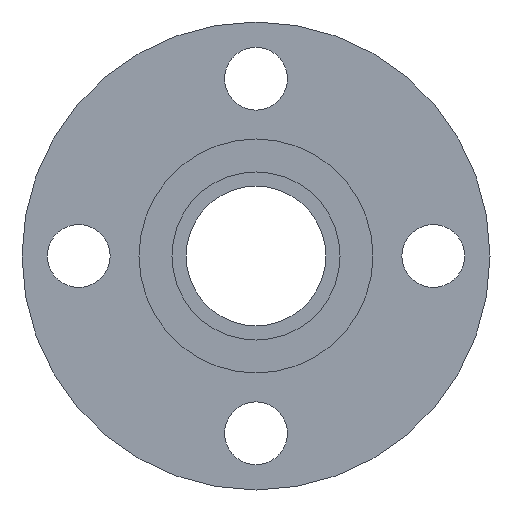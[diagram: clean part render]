
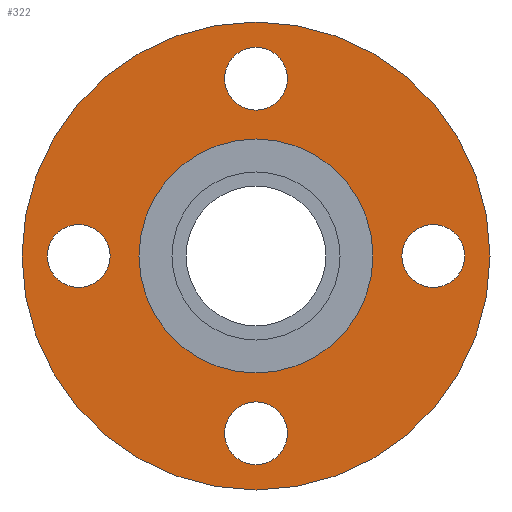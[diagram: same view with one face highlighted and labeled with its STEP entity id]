
A CAD part, left-side view. The second image highlights one B-rep face of the part: STEP entity #322.
In plain terms, the highlighted planar face has unit normal (-1, 0, 0).
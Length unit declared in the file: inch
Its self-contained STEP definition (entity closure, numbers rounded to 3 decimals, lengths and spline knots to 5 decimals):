
#14=FACE_BOUND('',#56,.T.);
#15=FACE_BOUND('',#57,.T.);
#16=FACE_BOUND('',#58,.T.);
#17=FACE_BOUND('',#59,.T.);
#18=FACE_BOUND('',#60,.T.);
#28=PLANE('',#370);
#39=FACE_OUTER_BOUND('',#55,.T.);
#55=EDGE_LOOP('',(#228,#229));
#56=EDGE_LOOP('',(#230));
#57=EDGE_LOOP('',(#231));
#58=EDGE_LOOP('',(#232));
#59=EDGE_LOOP('',(#233));
#60=EDGE_LOOP('',(#234,#235));
#101=CIRCLE('',#355,0.31);
#103=CIRCLE('',#358,0.31);
#105=CIRCLE('',#361,0.31);
#107=CIRCLE('',#364,0.31);
#108=CIRCLE('',#366,2.31);
#109=CIRCLE('',#367,2.31);
#112=CIRCLE('',#371,1.155);
#113=CIRCLE('',#372,1.155);
#133=VERTEX_POINT('',#513);
#135=VERTEX_POINT('',#519);
#137=VERTEX_POINT('',#525);
#139=VERTEX_POINT('',#531);
#140=VERTEX_POINT('',#535);
#141=VERTEX_POINT('',#536);
#144=VERTEX_POINT('',#545);
#145=VERTEX_POINT('',#546);
#166=EDGE_CURVE('',#133,#133,#101,.T.);
#169=EDGE_CURVE('',#135,#135,#103,.T.);
#172=EDGE_CURVE('',#137,#137,#105,.T.);
#175=EDGE_CURVE('',#139,#139,#107,.T.);
#176=EDGE_CURVE('',#140,#141,#108,.T.);
#177=EDGE_CURVE('',#141,#140,#109,.T.);
#181=EDGE_CURVE('',#144,#145,#112,.T.);
#182=EDGE_CURVE('',#145,#144,#113,.T.);
#228=ORIENTED_EDGE('',*,*,#176,.T.);
#229=ORIENTED_EDGE('',*,*,#177,.T.);
#230=ORIENTED_EDGE('',*,*,#166,.T.);
#231=ORIENTED_EDGE('',*,*,#169,.T.);
#232=ORIENTED_EDGE('',*,*,#172,.T.);
#233=ORIENTED_EDGE('',*,*,#175,.T.);
#234=ORIENTED_EDGE('',*,*,#181,.F.);
#235=ORIENTED_EDGE('',*,*,#182,.F.);
#322=ADVANCED_FACE('',(#39,#14,#15,#16,#17,#18),#28,.T.);
#355=AXIS2_PLACEMENT_3D('',#515,#408,#409);
#358=AXIS2_PLACEMENT_3D('',#521,#415,#416);
#361=AXIS2_PLACEMENT_3D('',#527,#422,#423);
#364=AXIS2_PLACEMENT_3D('',#533,#429,#430);
#366=AXIS2_PLACEMENT_3D('',#537,#433,#434);
#367=AXIS2_PLACEMENT_3D('',#538,#435,#436);
#370=AXIS2_PLACEMENT_3D('',#544,#442,#443);
#371=AXIS2_PLACEMENT_3D('',#547,#444,#445);
#372=AXIS2_PLACEMENT_3D('',#548,#446,#447);
#408=DIRECTION('center_axis',(1.,0.,0.));
#409=DIRECTION('ref_axis',(0.,-1.,0.));
#415=DIRECTION('center_axis',(1.,0.,0.));
#416=DIRECTION('ref_axis',(0.,0.,-1.));
#422=DIRECTION('center_axis',(1.,0.,0.));
#423=DIRECTION('ref_axis',(0.,1.,0.));
#429=DIRECTION('center_axis',(1.,0.,0.));
#430=DIRECTION('ref_axis',(0.,0.,1.));
#433=DIRECTION('center_axis',(-1.,0.,0.));
#434=DIRECTION('ref_axis',(0.,0.,1.));
#435=DIRECTION('center_axis',(-1.,0.,0.));
#436=DIRECTION('ref_axis',(0.,0.,1.));
#442=DIRECTION('center_axis',(-1.,0.,0.));
#443=DIRECTION('ref_axis',(0.,0.,1.));
#444=DIRECTION('center_axis',(-1.,0.,0.));
#445=DIRECTION('ref_axis',(0.,0.,1.));
#446=DIRECTION('center_axis',(-1.,0.,0.));
#447=DIRECTION('ref_axis',(0.,0.,1.));
#513=CARTESIAN_POINT('',(-0.62,2.06,0.));
#515=CARTESIAN_POINT('Origin',(-0.62,1.75,0.));
#519=CARTESIAN_POINT('',(-0.62,0.,2.06));
#521=CARTESIAN_POINT('Origin',(-0.62,0.,1.75));
#525=CARTESIAN_POINT('',(-0.62,-2.06,0.));
#527=CARTESIAN_POINT('Origin',(-0.62,-1.75,0.));
#531=CARTESIAN_POINT('',(-0.62,0.,-2.06));
#533=CARTESIAN_POINT('Origin',(-0.62,0.,-1.75));
#535=CARTESIAN_POINT('',(-0.62,0.,2.31));
#536=CARTESIAN_POINT('',(-0.62,0.,-2.31));
#537=CARTESIAN_POINT('Origin',(-0.62,0.,0.));
#538=CARTESIAN_POINT('Origin',(-0.62,0.,0.));
#544=CARTESIAN_POINT('Origin',(-0.62,0.,1.7325));
#545=CARTESIAN_POINT('',(-0.62,0.,1.155));
#546=CARTESIAN_POINT('',(-0.62,0.,-1.155));
#547=CARTESIAN_POINT('Origin',(-0.62,0.,0.));
#548=CARTESIAN_POINT('Origin',(-0.62,0.,0.));
